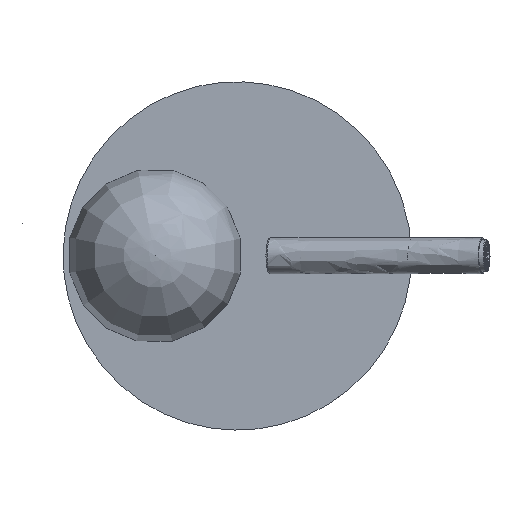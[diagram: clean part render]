
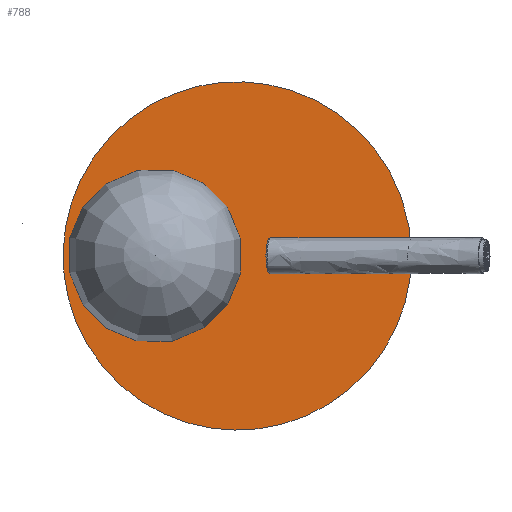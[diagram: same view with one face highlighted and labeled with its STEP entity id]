
A CAD part, top view. The second image highlights one B-rep face of the part: STEP entity #788.
In plain terms, the highlighted free-form (B-spline) face has degree [1, 1] with [2, 2] control points.
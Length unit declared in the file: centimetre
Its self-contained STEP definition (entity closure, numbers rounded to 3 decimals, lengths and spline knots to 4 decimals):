
#767 = CARTESIAN_POINT ('', (27., 0., 4.));
#768 = VERTEX_POINT ('', #767);
#769 = CARTESIAN_POINT ('', (27., 0., 4.));
#770 = CARTESIAN_POINT ('', (27., 12., 4.));
#771 = CARTESIAN_POINT ('', (15., 12., 4.));
#772 = CARTESIAN_POINT ('', (3., 12., 4.));
#773 = CARTESIAN_POINT ('', (3., 0., 4.));
#774 = CARTESIAN_POINT ('', (3., -12., 4.));
#775 = CARTESIAN_POINT ('', (15., -12., 4.));
#776 = CARTESIAN_POINT ('', (27., -12., 4.));
#777 = CARTESIAN_POINT ('', (27., 0., 4.));
#778 = (
   BOUNDED_CURVE ()
   B_SPLINE_CURVE (2, (#769, #770, #771, #772, #773, #774, #775, #776, #777), .UNSPECIFIED., .T., .U.)
   B_SPLINE_CURVE_WITH_KNOTS ((3, 2, 2, 2, 3), (0., 0.25, 0.5, 0.75, 1.), .UNSPECIFIED.)
   CURVE ()
   GEOMETRIC_REPRESENTATION_ITEM ()
   RATIONAL_B_SPLINE_CURVE ((1., 0.707, 1., 0.707, 1., 0.707, 1., 0.707, 1.))
   REPRESENTATION_ITEM ('')
);
#779 = EDGE_CURVE ('', #768, #768, #778, .T.);
#780 = ORIENTED_EDGE ('', *, *, #779, .T.);
#781 = EDGE_LOOP ('', (#780));
#782 = FACE_OUTER_BOUND ('', #781, .T.);
#783 = CARTESIAN_POINT ('', (50.2076, -34.1392, 4.));
#784 = CARTESIAN_POINT ('', (-21.0687, -34.1392, 4.));
#785 = CARTESIAN_POINT ('', (50.2076, 37.1372, 4.));
#786 = CARTESIAN_POINT ('', (-21.0687, 37.1372, 4.));
#787 = B_SPLINE_SURFACE_WITH_KNOTS ('', 1, 1, ((#783, #784), (#785, #786)), .UNSPECIFIED., .F., .F., .U., (2, 2), (2, 2), (0., 1.), (0., 1.), .UNSPECIFIED.);
#788 = ADVANCED_FACE ('', (#782), #787, .T.);
